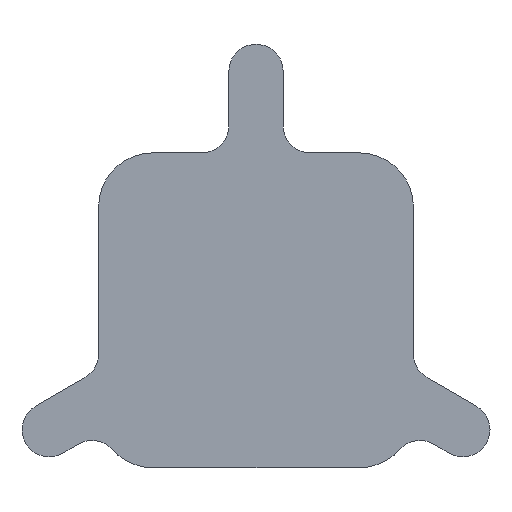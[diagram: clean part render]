
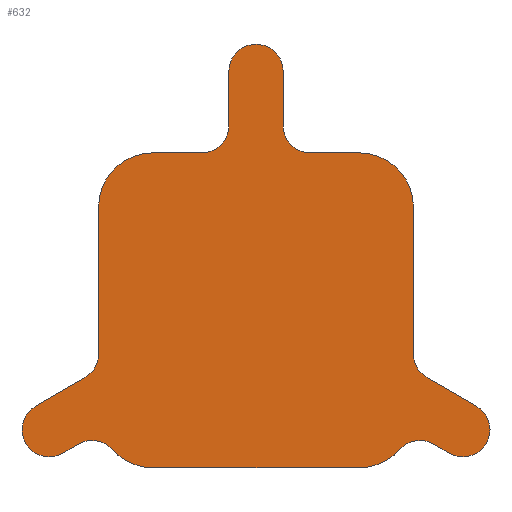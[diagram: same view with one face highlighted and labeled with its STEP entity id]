
A CAD part, front view. The second image highlights one B-rep face of the part: STEP entity #632.
In plain terms, the highlighted planar face has unit normal (0, -1, 0).
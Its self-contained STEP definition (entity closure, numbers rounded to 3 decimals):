
#24=PLANE('',#700);
#49=FACE_OUTER_BOUND('',#85,.T.);
#85=EDGE_LOOP('',(#480,#481,#482,#483,#484,#485,#486,#487,#488,#489,#490,
#491,#492,#493,#494,#495,#496,#497,#498,#499,#500,#501,#502,#503));
#116=LINE('',#969,#178);
#125=LINE('',#992,#187);
#130=LINE('',#1009,#192);
#136=LINE('',#1025,#198);
#138=LINE('',#1028,#200);
#144=LINE('',#1049,#206);
#145=LINE('',#1051,#207);
#146=LINE('',#1055,#208);
#147=LINE('',#1057,#209);
#148=LINE('',#1062,#210);
#149=LINE('',#1066,#211);
#178=VECTOR('',#767,10.);
#187=VECTOR('',#786,10.);
#192=VECTOR('',#801,10.);
#198=VECTOR('',#815,10.);
#200=VECTOR('',#817,10.);
#206=VECTOR('',#835,10.);
#207=VECTOR('',#836,10.);
#208=VECTOR('',#841,10.);
#209=VECTOR('',#842,10.);
#210=VECTOR('',#847,10.);
#211=VECTOR('',#850,10.);
#235=CIRCLE('',#673,0.5);
#237=CIRCLE('',#676,0.5);
#239=CIRCLE('',#679,1.);
#241=CIRCLE('',#683,1.);
#243=CIRCLE('',#687,1.);
#247=CIRCLE('',#693,1.);
#252=CIRCLE('',#701,0.5);
#253=CIRCLE('',#702,0.5);
#254=CIRCLE('',#703,0.5);
#255=CIRCLE('',#704,0.5);
#256=CIRCLE('',#705,0.5);
#257=CIRCLE('',#706,0.5);
#258=CIRCLE('',#707,0.5);
#268=VERTEX_POINT('',#944);
#269=VERTEX_POINT('',#946);
#272=VERTEX_POINT('',#953);
#273=VERTEX_POINT('',#955);
#275=VERTEX_POINT('',#960);
#277=VERTEX_POINT('',#964);
#278=VERTEX_POINT('',#968);
#283=VERTEX_POINT('',#980);
#284=VERTEX_POINT('',#982);
#287=VERTEX_POINT('',#989);
#288=VERTEX_POINT('',#994);
#293=VERTEX_POINT('',#1006);
#294=VERTEX_POINT('',#1008);
#297=VERTEX_POINT('',#1015);
#300=VERTEX_POINT('',#1023);
#301=VERTEX_POINT('',#1027);
#310=VERTEX_POINT('',#1048);
#311=VERTEX_POINT('',#1050);
#312=VERTEX_POINT('',#1053);
#313=VERTEX_POINT('',#1056);
#314=VERTEX_POINT('',#1059);
#315=VERTEX_POINT('',#1061);
#316=VERTEX_POINT('',#1063);
#317=VERTEX_POINT('',#1065);
#328=EDGE_CURVE('',#269,#268,#235,.F.);
#332=EDGE_CURVE('',#273,#272,#237,.F.);
#337=EDGE_CURVE('',#277,#275,#239,.T.);
#338=EDGE_CURVE('',#275,#278,#116,.F.);
#345=EDGE_CURVE('',#283,#284,#241,.T.);
#350=EDGE_CURVE('',#284,#287,#125,.F.);
#351=EDGE_CURVE('',#287,#288,#243,.T.);
#358=EDGE_CURVE('',#293,#294,#130,.F.);
#363=EDGE_CURVE('',#294,#297,#247,.T.);
#366=EDGE_CURVE('',#300,#277,#136,.F.);
#368=EDGE_CURVE('',#297,#301,#138,.F.);
#378=EDGE_CURVE('',#310,#269,#144,.F.);
#379=EDGE_CURVE('',#268,#311,#145,.F.);
#380=EDGE_CURVE('',#311,#288,#252,.T.);
#381=EDGE_CURVE('',#283,#312,#253,.T.);
#382=EDGE_CURVE('',#312,#273,#146,.F.);
#383=EDGE_CURVE('',#272,#313,#147,.F.);
#384=EDGE_CURVE('',#313,#278,#254,.T.);
#385=EDGE_CURVE('',#300,#314,#255,.T.);
#386=EDGE_CURVE('',#314,#315,#148,.F.);
#387=EDGE_CURVE('',#315,#316,#256,.F.);
#388=EDGE_CURVE('',#316,#317,#149,.F.);
#389=EDGE_CURVE('',#317,#301,#257,.T.);
#390=EDGE_CURVE('',#293,#310,#258,.T.);
#480=ORIENTED_EDGE('',*,*,#378,.T.);
#481=ORIENTED_EDGE('',*,*,#328,.T.);
#482=ORIENTED_EDGE('',*,*,#379,.T.);
#483=ORIENTED_EDGE('',*,*,#380,.T.);
#484=ORIENTED_EDGE('',*,*,#351,.F.);
#485=ORIENTED_EDGE('',*,*,#350,.F.);
#486=ORIENTED_EDGE('',*,*,#345,.F.);
#487=ORIENTED_EDGE('',*,*,#381,.T.);
#488=ORIENTED_EDGE('',*,*,#382,.T.);
#489=ORIENTED_EDGE('',*,*,#332,.T.);
#490=ORIENTED_EDGE('',*,*,#383,.T.);
#491=ORIENTED_EDGE('',*,*,#384,.T.);
#492=ORIENTED_EDGE('',*,*,#338,.F.);
#493=ORIENTED_EDGE('',*,*,#337,.F.);
#494=ORIENTED_EDGE('',*,*,#366,.F.);
#495=ORIENTED_EDGE('',*,*,#385,.T.);
#496=ORIENTED_EDGE('',*,*,#386,.T.);
#497=ORIENTED_EDGE('',*,*,#387,.T.);
#498=ORIENTED_EDGE('',*,*,#388,.T.);
#499=ORIENTED_EDGE('',*,*,#389,.T.);
#500=ORIENTED_EDGE('',*,*,#368,.F.);
#501=ORIENTED_EDGE('',*,*,#363,.F.);
#502=ORIENTED_EDGE('',*,*,#358,.F.);
#503=ORIENTED_EDGE('',*,*,#390,.T.);
#632=ADVANCED_FACE('',(#49),#24,.F.);
#673=AXIS2_PLACEMENT_3D('',#947,#746,#747);
#676=AXIS2_PLACEMENT_3D('',#956,#754,#755);
#679=AXIS2_PLACEMENT_3D('',#966,#763,#764);
#683=AXIS2_PLACEMENT_3D('',#983,#777,#778);
#687=AXIS2_PLACEMENT_3D('',#995,#789,#790);
#693=AXIS2_PLACEMENT_3D('',#1018,#809,#810);
#700=AXIS2_PLACEMENT_3D('',#1047,#833,#834);
#701=AXIS2_PLACEMENT_3D('',#1052,#837,#838);
#702=AXIS2_PLACEMENT_3D('',#1054,#839,#840);
#703=AXIS2_PLACEMENT_3D('',#1058,#843,#844);
#704=AXIS2_PLACEMENT_3D('',#1060,#845,#846);
#705=AXIS2_PLACEMENT_3D('',#1064,#848,#849);
#706=AXIS2_PLACEMENT_3D('',#1067,#851,#852);
#707=AXIS2_PLACEMENT_3D('',#1068,#853,#854);
#746=DIRECTION('center_axis',(0.,1.,0.));
#747=DIRECTION('ref_axis',(0.,0.,-1.));
#754=DIRECTION('center_axis',(0.,1.,0.));
#755=DIRECTION('ref_axis',(0.,0.,-1.));
#763=DIRECTION('center_axis',(0.,1.,0.));
#764=DIRECTION('ref_axis',(0.,0.,-1.));
#767=DIRECTION('',(0.,0.,1.));
#777=DIRECTION('center_axis',(0.,1.,0.));
#778=DIRECTION('ref_axis',(0.,0.,-1.));
#786=DIRECTION('',(1.,0.,0.));
#789=DIRECTION('center_axis',(0.,1.,0.));
#790=DIRECTION('ref_axis',(0.,0.,-1.));
#801=DIRECTION('',(0.,0.,-1.));
#809=DIRECTION('center_axis',(0.,1.,0.));
#810=DIRECTION('ref_axis',(0.,0.,-1.));
#815=DIRECTION('',(-1.,0.,0.));
#817=DIRECTION('',(-1.,0.,0.));
#833=DIRECTION('center_axis',(0.,1.,0.));
#834=DIRECTION('ref_axis',(0.,0.,1.));
#835=DIRECTION('',(0.866,0.,0.5));
#836=DIRECTION('',(-0.866,0.,-0.5));
#837=DIRECTION('center_axis',(0.,1.,0.));
#838=DIRECTION('ref_axis',(0.,0.,-1.));
#839=DIRECTION('center_axis',(0.,1.,0.));
#840=DIRECTION('ref_axis',(0.,0.,-1.));
#841=DIRECTION('',(-0.866,0.,0.5));
#842=DIRECTION('',(0.866,0.,-0.5));
#843=DIRECTION('center_axis',(0.,1.,0.));
#844=DIRECTION('ref_axis',(0.,0.,1.));
#845=DIRECTION('center_axis',(0.,1.,0.));
#846=DIRECTION('ref_axis',(0.,0.,-1.));
#847=DIRECTION('',(0.,0.,-1.));
#848=DIRECTION('center_axis',(0.,1.,0.));
#849=DIRECTION('ref_axis',(0.,0.,-1.));
#850=DIRECTION('',(0.,0.,1.));
#851=DIRECTION('center_axis',(0.,1.,0.));
#852=DIRECTION('ref_axis',(0.,0.,-1.));
#853=DIRECTION('center_axis',(0.,1.,0.));
#854=DIRECTION('ref_axis',(0.,0.,-1.));
#944=CARTESIAN_POINT('',(-0.661,0.,-5.533));
#946=CARTESIAN_POINT('',(-1.161,0.,-4.667));
#947=CARTESIAN_POINT('Origin',(-0.911,0.,
-5.1));
#953=CARTESIAN_POINT('',(6.961,0.,-4.667));
#955=CARTESIAN_POINT('',(6.461,0.,-5.533));
#956=CARTESIAN_POINT('Origin',(6.711,0.,-5.1));
#960=CARTESIAN_POINT('',(5.8,0.,-1.));
#964=CARTESIAN_POINT('',(4.8,0.,0.));
#966=CARTESIAN_POINT('Origin',(4.8,0.,-1.));
#968=CARTESIAN_POINT('',(5.8,0.,-3.708));
#969=CARTESIAN_POINT('',(5.8,0.,-1.));
#980=CARTESIAN_POINT('',(5.546,0.,-5.465));
#982=CARTESIAN_POINT('',(4.8,0.,-5.8));
#983=CARTESIAN_POINT('Origin',(4.8,0.,-4.8));
#989=CARTESIAN_POINT('',(1.,0.,-5.8));
#992=CARTESIAN_POINT('',(2.9,0.,-5.8));
#994=CARTESIAN_POINT('',(0.254,0.,-5.465));
#995=CARTESIAN_POINT('Origin',(1.,0.,
-4.8));
#1006=CARTESIAN_POINT('',(0.,0.,-3.708));
#1008=CARTESIAN_POINT('',(0.,0.,-1.));
#1009=CARTESIAN_POINT('',(0.,0.,-1.));
#1015=CARTESIAN_POINT('',(1.,0.,0.));
#1018=CARTESIAN_POINT('Origin',(1.,0.,
-1.));
#1023=CARTESIAN_POINT('',(3.9,0.,0.));
#1025=CARTESIAN_POINT('',(2.9,0.,0.));
#1027=CARTESIAN_POINT('',(1.9,0.,0.));
#1028=CARTESIAN_POINT('',(2.9,0.,0.));
#1047=CARTESIAN_POINT('Origin',(4.8,0.,
-1.));
#1048=CARTESIAN_POINT('',(-0.25,0.,-4.141));
#1049=CARTESIAN_POINT('',(2.518,0.,-2.543));
#1050=CARTESIAN_POINT('',(-0.37,0.,-5.365));
#1051=CARTESIAN_POINT('',(3.018,0.,-3.409));
#1052=CARTESIAN_POINT('Origin',(-0.12,0.,
-5.798));
#1053=CARTESIAN_POINT('',(6.17,0.,-5.365));
#1054=CARTESIAN_POINT('Origin',(5.92,0.,
-5.798));
#1055=CARTESIAN_POINT('',(4.207,0.,-4.232));
#1056=CARTESIAN_POINT('',(6.05,0.,-4.141));
#1057=CARTESIAN_POINT('',(4.707,0.,-3.366));
#1058=CARTESIAN_POINT('Origin',(6.3,0.,
-3.708));
#1059=CARTESIAN_POINT('',(3.4,0.,0.5));
#1060=CARTESIAN_POINT('Origin',(3.9,0.,
0.5));
#1061=CARTESIAN_POINT('',(3.4,0.,1.5));
#1062=CARTESIAN_POINT('',(3.4,0.,-0.5));
#1063=CARTESIAN_POINT('',(2.4,0.,1.5));
#1064=CARTESIAN_POINT('Origin',(2.9,0.,
1.5));
#1065=CARTESIAN_POINT('',(2.4,0.,0.5));
#1066=CARTESIAN_POINT('',(2.4,0.,-0.5));
#1067=CARTESIAN_POINT('Origin',(1.9,0.,
0.5));
#1068=CARTESIAN_POINT('Origin',(-0.5,0.,
-3.708));
